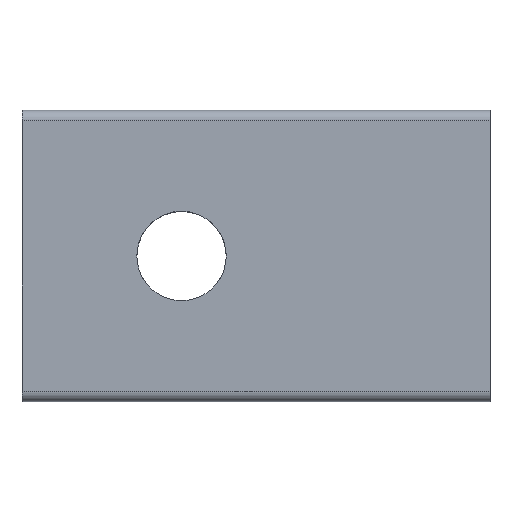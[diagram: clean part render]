
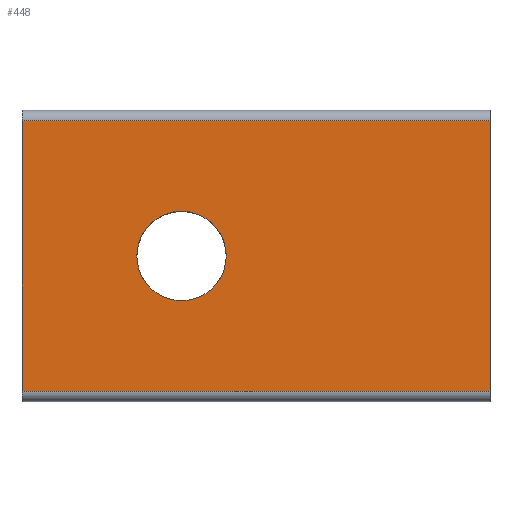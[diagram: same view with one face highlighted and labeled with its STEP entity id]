
A CAD part, top view. The second image highlights one B-rep face of the part: STEP entity #448.
In plain terms, the highlighted planar face has unit normal (0, 0, 1).
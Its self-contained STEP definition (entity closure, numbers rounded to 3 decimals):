
#2 = VERTEX_POINT ( 'NONE', #580 ) ;
#19 = ORIENTED_EDGE ( 'NONE', *, *, #379, .F. ) ;
#26 = CARTESIAN_POINT ( 'NONE',  ( -7.5, 6.35, 0. ) ) ;
#42 = VERTEX_POINT ( 'NONE', #553 ) ;
#72 = DIRECTION ( 'NONE',  ( 1., 0., 0. ) ) ;
#111 = ORIENTED_EDGE ( 'NONE', *, *, #398, .T. ) ;
#112 = CARTESIAN_POINT ( 'NONE',  ( 0., 0., 0. ) ) ;
#125 = AXIS2_PLACEMENT_3D ( 'NONE', #112, #294, #254 ) ;
#134 = LINE ( 'NONE', #372, #494 ) ;
#161 = EDGE_CURVE ( 'NONE', #42, #550, #313, .T. ) ;
#201 = FACE_OUTER_BOUND ( 'NONE', #228, .T. ) ;
#204 = CIRCLE ( 'NONE', #589, 2.1 ) ;
#224 = CIRCLE ( 'NONE', #125, 2.1 ) ;
#228 = EDGE_LOOP ( 'NONE', ( #416, #343, #483, #111 ) ) ;
#238 = VECTOR ( 'NONE', #592, 1000. ) ;
#245 = VERTEX_POINT ( 'NONE', #469 ) ;
#252 = CARTESIAN_POINT ( 'NONE',  ( 14.5, 6.35, 0. ) ) ;
#254 = DIRECTION ( 'NONE',  ( 1., 0., 0. ) ) ;
#255 = DIRECTION ( 'NONE',  ( -1., 0., 0. ) ) ;
#258 = DIRECTION ( 'NONE',  ( -1., 0., 0. ) ) ;
#265 = LINE ( 'NONE', #458, #295 ) ;
#276 = VERTEX_POINT ( 'NONE', #331 ) ;
#290 = CARTESIAN_POINT ( 'NONE',  ( 14.5, -6.35, 0. ) ) ;
#294 = DIRECTION ( 'NONE',  ( 0., 0., 1. ) ) ;
#295 = VECTOR ( 'NONE', #397, 1000. ) ;
#302 = DIRECTION ( 'NONE',  ( 0., 0., -1. ) ) ;
#312 = CARTESIAN_POINT ( 'NONE',  ( -7.5, -6.35, 0. ) ) ;
#313 = LINE ( 'NONE', #26, #238 ) ;
#314 = EDGE_CURVE ( 'NONE', #276, #412, #134, .T. ) ;
#331 = CARTESIAN_POINT ( 'NONE',  ( 14.5, 6.35, 0. ) ) ;
#342 = LINE ( 'NONE', #252, #546 ) ;
#343 = ORIENTED_EDGE ( 'NONE', *, *, #552, .F. ) ;
#347 = PLANE ( 'NONE',  #500 ) ;
#359 = CARTESIAN_POINT ( 'NONE',  ( 0., 0., 0. ) ) ;
#372 = CARTESIAN_POINT ( 'NONE',  ( 14.5, 6.35, 0. ) ) ;
#379 = EDGE_CURVE ( 'NONE', #2, #245, #224, .T. ) ;
#397 = DIRECTION ( 'NONE',  ( -1., 0., 0. ) ) ;
#398 = EDGE_CURVE ( 'NONE', #276, #42, #342, .T. ) ;
#412 = VERTEX_POINT ( 'NONE', #290 ) ;
#416 = ORIENTED_EDGE ( 'NONE', *, *, #161, .T. ) ;
#448 = ADVANCED_FACE ( 'NONE', ( #575, #201 ), #347, .F. ) ;
#458 = CARTESIAN_POINT ( 'NONE',  ( 14.5, -6.35, 0. ) ) ;
#462 = EDGE_LOOP ( 'NONE', ( #19, #566 ) ) ;
#469 = CARTESIAN_POINT ( 'NONE',  ( -2.1, 0., 0. ) ) ;
#483 = ORIENTED_EDGE ( 'NONE', *, *, #314, .F. ) ;
#494 = VECTOR ( 'NONE', #564, 1000. ) ;
#498 = EDGE_CURVE ( 'NONE', #245, #2, #204, .T. ) ;
#500 = AXIS2_PLACEMENT_3D ( 'NONE', #536, #302, #255 ) ;
#536 = CARTESIAN_POINT ( 'NONE',  ( 14.5, 6.35, 0. ) ) ;
#546 = VECTOR ( 'NONE', #258, 1000. ) ;
#550 = VERTEX_POINT ( 'NONE', #312 ) ;
#552 = EDGE_CURVE ( 'NONE', #412, #550, #265, .T. ) ;
#553 = CARTESIAN_POINT ( 'NONE',  ( -7.5, 6.35, 0. ) ) ;
#564 = DIRECTION ( 'NONE',  ( 0., -1., 0. ) ) ;
#566 = ORIENTED_EDGE ( 'NONE', *, *, #498, .F. ) ;
#575 = FACE_BOUND ( 'NONE', #462, .T. ) ;
#580 = CARTESIAN_POINT ( 'NONE',  ( 2.1, 0., 0. ) ) ;
#589 = AXIS2_PLACEMENT_3D ( 'NONE', #359, #598, #72 ) ;
#592 = DIRECTION ( 'NONE',  ( 0., -1., 0. ) ) ;
#598 = DIRECTION ( 'NONE',  ( 0., 0., 1. ) ) ;
